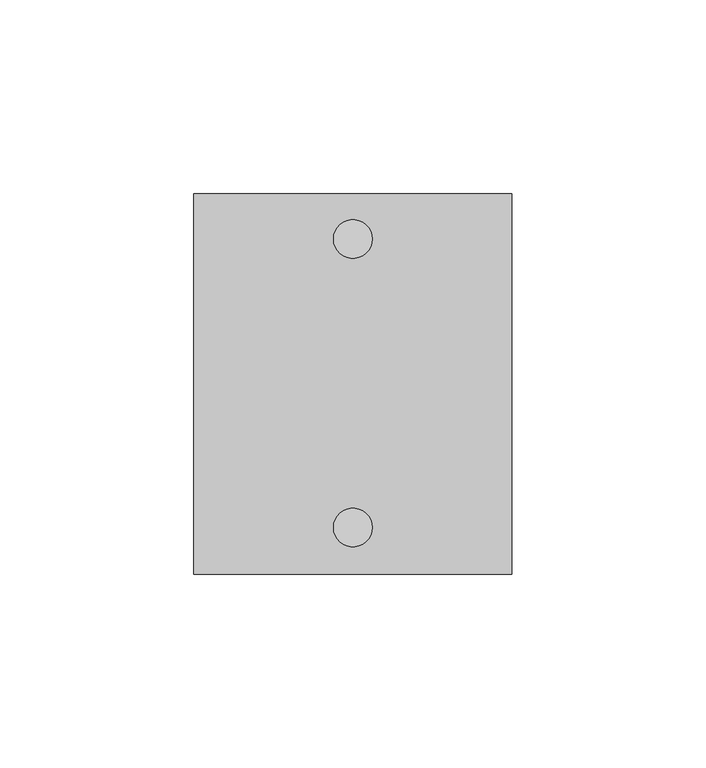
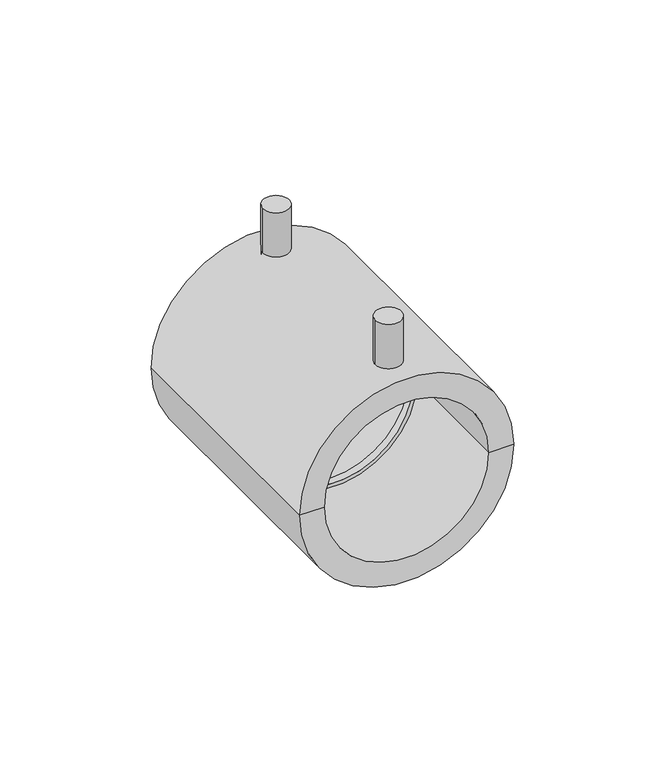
"""IFC4 building model written with IfcOpenShell, lengths in millimetres: pipe fitting geometry, NIRON RED electrico manguito : Estándar."""

from ifc_helpers import new_model, si_unit, point, frame, frame_2d, origin, place, context, project, spatial, polyline, circle_curve, trimmed, segment, composite_curve, outline, extrude, source, transform, mapped, element, save
from ifc_brep_helpers import plane_surface, cylinder_surface, revolved_surface, advanced_brep


def pipe_fitting_7c065aad(model_context):
    return source(origin(), model_context, "Body", "SolidModel", [
        advanced_brep(
        [(41.0, 98.0, 0.0), (-41.0, 98.0, 0.0), (-31.5, 98.0, 0.0), (31.5, 98.0, 0.0), (41.0, 0.0, 0.0), (-41.0, 0.0, 0.0), (31.5, 0.0, 0.0), (-31.5, 0.0, 0.0), (31.5, 47.5, 0.0), (-31.5, 47.5, 0.0), (30.0, 47.5, 0.0), (-30.0, 47.5, 0.0), (30.0, 50.5, 0.0), (-30.0, 50.5, 0.0), (31.5, 50.5, 0.0), (-31.5, 50.5, 0.0)],
        [
            (0, 1, circle_curve(frame((0.0, 98.0, 0.0), z_axis=(0.0, 1.0, 0.0), x_axis=(-1.0, 0.0, 0.0)), 41.0)),
            (1, 2),
            (2, 3, circle_curve(frame((0.0, 98.0, 0.0), z_axis=(0.0, -1.0, 0.0), x_axis=(-1.0, 0.0, 0.0)), 31.5)),
            (3, 0),
            (1, 0, circle_curve(frame((0.0, 98.0, 0.0), z_axis=(0.0, 1.0, 0.0), x_axis=(-1.0, 0.0, 0.0)), 41.0)),
            (3, 2, circle_curve(frame((0.0, 98.0, 0.0), z_axis=(0.0, -1.0, 0.0), x_axis=(-1.0, 0.0, 0.0)), 31.5)),
            (4, 5, circle_curve(frame((0.0, 0.0, 0.0), z_axis=(0.0, 1.0, 0.0), x_axis=(-1.0, 0.0, 0.0)), 41.0)),
            (5, 1),
            (0, 4),
            (5, 4, circle_curve(frame((0.0, 0.0, 0.0), z_axis=(0.0, 1.0, 0.0), x_axis=(-1.0, 0.0, 0.0)), 41.0)),
            (6, 7, circle_curve(frame((0.0, 0.0, 0.0), z_axis=(0.0, 1.0, 0.0), x_axis=(-1.0, 0.0, 0.0)), 31.5)),
            (7, 5),
            (4, 6),
            (7, 6, circle_curve(frame((0.0, 0.0, 0.0), z_axis=(0.0, 1.0, 0.0), x_axis=(-1.0, 0.0, 0.0)), 31.5)),
            (8, 9, circle_curve(frame((0.0, 47.5, 0.0), z_axis=(0.0, 1.0, 0.0), x_axis=(-1.0, 0.0, 0.0)), 31.5)),
            (9, 7),
            (6, 8),
            (9, 8, circle_curve(frame((0.0, 47.5, 0.0), z_axis=(0.0, 1.0, 0.0), x_axis=(-1.0, 0.0, 0.0)), 31.5)),
            (10, 11, circle_curve(frame((0.0, 47.5, 0.0), z_axis=(0.0, 1.0, 0.0), x_axis=(-1.0, 0.0, 0.0)), 30.0)),
            (11, 9),
            (8, 10),
            (11, 10, circle_curve(frame((0.0, 47.5, 0.0), z_axis=(0.0, 1.0, 0.0), x_axis=(-1.0, 0.0, 0.0)), 30.0)),
            (12, 13, circle_curve(frame((0.0, 50.5, 0.0), z_axis=(0.0, 1.0, 0.0), x_axis=(-1.0, 0.0, 0.0)), 30.0)),
            (13, 11),
            (10, 12),
            (13, 12, circle_curve(frame((0.0, 50.5, 0.0), z_axis=(0.0, 1.0, 0.0), x_axis=(-1.0, 0.0, 0.0)), 30.0)),
            (14, 15, circle_curve(frame((0.0, 50.5, 0.0), z_axis=(0.0, 1.0, 0.0), x_axis=(-1.0, 0.0, 0.0)), 31.5)),
            (15, 13),
            (12, 14),
            (15, 14, circle_curve(frame((0.0, 50.5, 0.0), z_axis=(0.0, 1.0, 0.0), x_axis=(-1.0, 0.0, 0.0)), 31.5)),
            (2, 15),
            (14, 3),
        ],
        [
            plane_surface(frame((0.0, 98.0, 0.0), z_axis=(0.0, 1.0, 0.0), x_axis=(-1.0, 0.0, 0.0))),
            cylinder_surface(frame((0.0, 123.0, 0.0), z_axis=(0.0, -1.0, 0.0), x_axis=(-1.0, 0.0, 0.0)), 41.0),
            plane_surface(frame((0.0, 0.0, 0.0), z_axis=(0.0, -1.0, 0.0), x_axis=(-1.0, 0.0, 0.0))),
            revolved_surface(polyline([(-31.5, 0.0, 0.0), (-31.5, 47.5, 0.0)]), (0.0, 123.0, 0.0), (0.0, -1.0, 0.0)),
            plane_surface(frame((0.0, 47.5, 0.0), z_axis=(0.0, -1.0, 0.0), x_axis=(-1.0, 0.0, 0.0))),
            revolved_surface(polyline([(-30.0, 47.5, 0.0), (-30.0, 50.5, 0.0)]), (0.0, 123.0, 0.0), (0.0, -1.0, 0.0)),
            plane_surface(frame((0.0, 50.5, 0.0), z_axis=(0.0, 1.0, 0.0), x_axis=(-1.0, 0.0, 0.0))),
            revolved_surface(polyline([(-31.5, 50.5, 0.0), (-31.5, 98.0, 0.0)]), (0.0, 123.0, 0.0), (0.0, -1.0, 0.0)),
        ],
        [
            (0, [[1, 2, 3, 4]]),
            (0, [[5, -4, 6, -2]]),
            (1, [[7, 8, -1, 9]]),
            (1, [[10, -9, -5, -8]]),
            (2, [[11, 12, -7, 13]]),
            (2, [[14, -13, -10, -12]]),
            (3, [[15, 16, -11, 17]]),
            (3, [[18, -17, -14, -16]]),
            (4, [[19, 20, -15, 21]]),
            (4, [[22, -21, -18, -20]]),
            (5, [[23, 24, -19, 25]]),
            (5, [[26, -25, -22, -24]]),
            (6, [[27, 28, -23, 29]]),
            (6, [[30, -29, -26, -28]]),
            (7, [[-3, 31, -27, 32]]),
            (7, [[-6, -32, -30, -31]]),
        ],
    ),
        extrude(outline(composite_curve([segment(trimmed(circle_curve(frame_2d((0.0, 12.0)), 5.0), [point((-5.0, 12.0))], [point((5.0, 12.0))], False, "CARTESIAN"), True, "CONTINUOUS"), segment(trimmed(circle_curve(frame_2d((0.0, 12.0)), 5.0), [point((5.0, 12.0))], [point((-5.0, 12.0))], False, "CARTESIAN"), True, "CONTINUOUS")], self_intersect=False)), frame((0.0, 0.0, 38.0), z_axis=(0.0, 0.0, 1.0), x_axis=(1.0, 0.0, 0.0)), (0.0, 0.0, 1.0), 21.0),
        extrude(outline(composite_curve([segment(trimmed(circle_curve(frame_2d((0.0, 86.3742842)), 5.0), [point((-5.0, 86.3742842))], [point((5.0, 86.3742842))], False, "CARTESIAN"), True, "CONTINUOUS"), segment(trimmed(circle_curve(frame_2d((0.0, 86.3742842)), 5.0), [point((5.0, 86.3742842))], [point((-5.0, 86.3742842))], False, "CARTESIAN"), True, "CONTINUOUS")], self_intersect=False)), frame((0.0, 0.0, 38.0), z_axis=(0.0, 0.0, 1.0), x_axis=(1.0, 0.0, 0.0)), (0.0, 0.0, 1.0), 21.0),
    ])


if __name__ == "__main__":
    model = new_model("IFC4")
    model_context = context("Model", 3, world=origin())
    ifc_project = project(units=[si_unit("LENGTHUNIT", "METRE", prefix="MILLI")], contexts=[model_context])
    site = spatial("IfcSite", under=ifc_project)
    building = spatial("IfcBuilding", under=site)
    placement = place(None, origin())
    pipe_fitting_shape = pipe_fitting_7c065aad(model_context)
    element("IfcPipeFitting", 1, ObjectType="NIRON RED electrico manguito : Estándar", at=placement, inside=building, context=model_context, shape_type="MappedRepresentation", body=[
        mapped(pipe_fitting_shape, transform((0.0, 0.0, 0.0), x_axis=(1.0, 0.0, 0.0), y_axis=(0.0, 1.0, 0.0), z_axis=(0.0, 0.0, 1.0))),
    ])
    save(model, "model.ifc")
